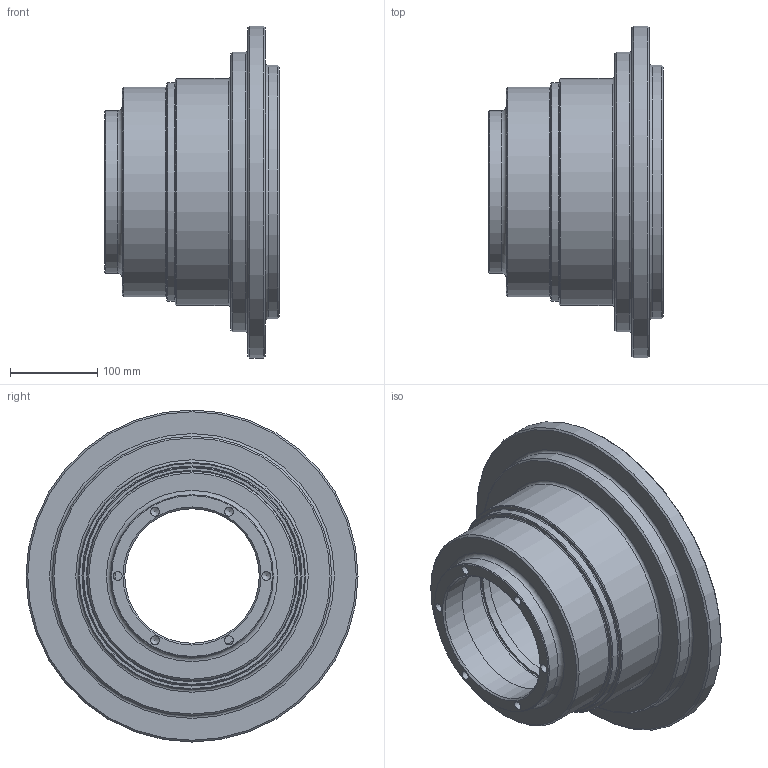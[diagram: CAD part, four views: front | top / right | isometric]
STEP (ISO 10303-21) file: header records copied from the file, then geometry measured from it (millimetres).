
FILE_DESCRIPTION(/* description */ (''),/* implementation_level */ '2;1');
FILE_NAME(/* name */ 'C:\Users\jbart\OneDrive\Plocha\Nová složka\3D modely - stp\Bočnice.stp',/* time_stamp */ '2025-05-15T16:46:42+02:00',/* author */ ('jbart'),/* organization */ (''),/* preprocessor_version */ 'ST-DEVELOPER v18.1',/* originating_system */ 'Autodesk Inventor 2022',/* authorisation */ '');
FILE_SCHEMA (('AUTOMOTIVE_DESIGN { 1 0 10303 214 3 1 1 }'));
Length unit declared in the file: millimetre
Products named in the file (1): Bočnice
Bounding box: 200 x 380 x 380 mm (x, y, z)
Volume: 5576322.7 mm3; surface area: 478210.8 mm2
Topology: 1 solids, 1 shells, 86 faces, 199 edges, 126 vertices
Faces by surface type: cylinder 33, cone 31, plane 13, torus 9
Full cylindrical faces by diameter (mm): 10.106 x14, 17.294 x6, 154 x1, 180 x2, 185 x1, 186 x1, 200 x1, 240 x1, 250 x1, 260 x1, 270 x1, 290 x1, 320 x1, 380 x1
Entity records: 2423 total; most frequent: DIRECTION 468, CARTESIAN_POINT 392, ORIENTED_EDGE 358, AXIS2_PLACEMENT_3D 202, EDGE_CURVE 179, VERTEX_POINT 126, EDGE_LOOP 119, CIRCLE 115
